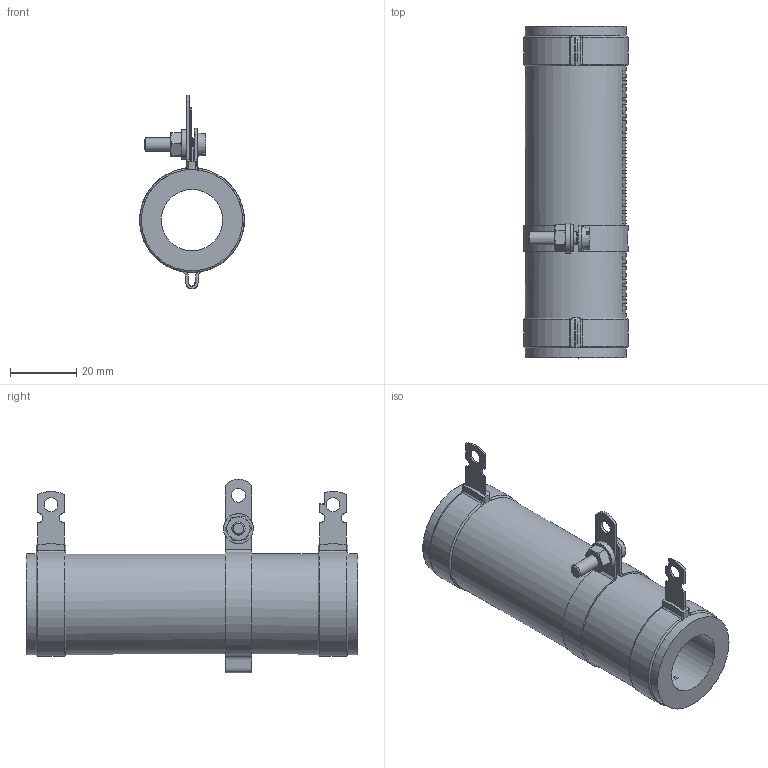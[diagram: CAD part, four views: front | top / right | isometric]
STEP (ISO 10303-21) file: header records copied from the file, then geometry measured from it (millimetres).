
FILE_DESCRIPTION(/* description */ (''),/* implementation_level */ '2;1');
FILE_NAME(/* name */ 'C:\_Vault\Dati\CATALOGO\RCA-RSA\R 25-1000\3D\RCAR 90.stp',/* time_stamp */ '2014-03-18T17:41:13+01:00',/* author */ ('stefano'),/* organization */ (''),/* preprocessor_version */ 'ST-DEVELOPER v15.2',/* originating_system */ 'Autodesk Inventor 2014',/* authorisation */ '');
FILE_SCHEMA (('AUTOMOTIVE_DESIGN { 1 0 10303 214 3 1 1 }'));
Length unit declared in the file: millimetre
Products named in the file (1): RCAR 90
Bounding box: 31.57 x 100 x 58.36 mm (x, y, z)
Volume: 48288.3 mm3; surface area: 18646.6 mm2
Topology: 1 solids, 2 shells, 318 faces, 773 edges, 501 vertices
Faces by surface type: plane 199, cylinder 84, cone 17, torus 14, bspline 4
Full cylindrical faces by diameter (mm): 3.571 x1, 4 x2, 4.2 x5, 4.3 x1, 9 x1, 18.5 x1, 30.5 x3
Entity records: 9814 total; most frequent: CARTESIAN_POINT 1972, DIRECTION 1600, ORIENTED_EDGE 1482, EDGE_CURVE 741, AXIS2_PLACEMENT_3D 597, VERTEX_POINT 489, LINE 406, VECTOR 406
